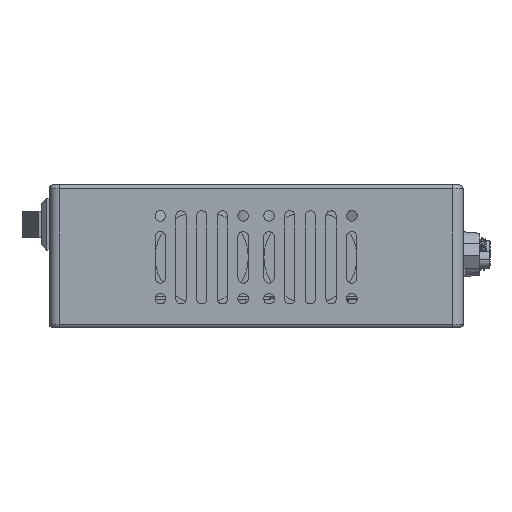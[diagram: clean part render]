
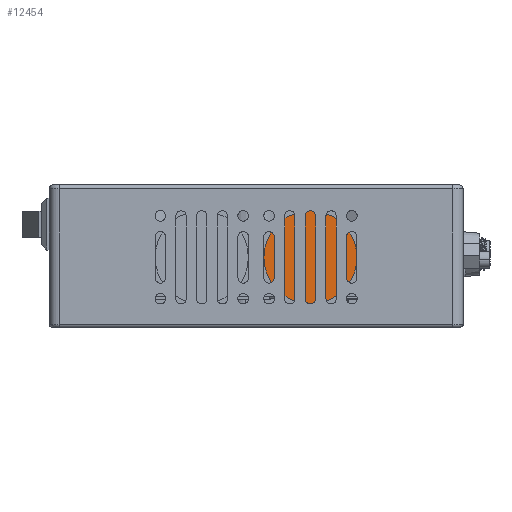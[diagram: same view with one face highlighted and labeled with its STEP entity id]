
A CAD part, left-side view. The second image highlights one B-rep face of the part: STEP entity #12454.
In plain terms, the highlighted planar face has unit normal (-1, 0, 0).
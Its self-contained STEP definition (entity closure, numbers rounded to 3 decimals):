
#8793 = DIRECTION ( 'NONE',  ( -1., 0., 0. ) ) ;
#12454 = ADVANCED_FACE ( 'NONE', ( #62877 ), #60549, .T. ) ;
#19005 = EDGE_LOOP ( 'NONE', ( #74101, #82746 ) ) ;
#20783 = CIRCLE ( 'NONE', #74014, 9. ) ;
#28559 = DIRECTION ( 'NONE',  ( -1., 0., 0. ) ) ;
#31846 = VERTEX_POINT ( 'NONE', #100546 ) ;
#36977 = AXIS2_PLACEMENT_3D ( 'NONE', #56960, #8793, #65093 ) ;
#40560 = CARTESIAN_POINT ( 'NONE',  ( -38.952, -7.074, 167.263 ) ) ;
#42659 = AXIS2_PLACEMENT_3D ( 'NONE', #52436, #28559, #84842 ) ;
#44124 = CARTESIAN_POINT ( 'NONE',  ( -38.952, -7.074, 158.263 ) ) ;
#46324 = EDGE_CURVE ( 'NONE', #47575, #31846, #76980, .T. ) ;
#47575 = VERTEX_POINT ( 'NONE', #44124 ) ;
#48620 = DIRECTION ( 'NONE',  ( 0., 0., 1. ) ) ;
#52436 = CARTESIAN_POINT ( 'NONE',  ( -38.952, -7.074, 167.263 ) ) ;
#56960 = CARTESIAN_POINT ( 'NONE',  ( -38.952, -7.074, 167.263 ) ) ;
#60549 = PLANE ( 'NONE',  #42659 ) ;
#62877 = FACE_OUTER_BOUND ( 'NONE', #19005, .T. ) ;
#65093 = DIRECTION ( 'NONE',  ( 0., 0., 1. ) ) ;
#69405 = EDGE_CURVE ( 'NONE', #31846, #47575, #20783, .T. ) ;
#74014 = AXIS2_PLACEMENT_3D ( 'NONE', #40560, #96851, #48620 ) ;
#74101 = ORIENTED_EDGE ( 'NONE', *, *, #69405, .T. ) ;
#76980 = CIRCLE ( 'NONE', #36977, 9. ) ;
#82746 = ORIENTED_EDGE ( 'NONE', *, *, #46324, .T. ) ;
#84842 = DIRECTION ( 'NONE',  ( 0., 0., 1. ) ) ;
#96851 = DIRECTION ( 'NONE',  ( -1., 0., 0. ) ) ;
#100546 = CARTESIAN_POINT ( 'NONE',  ( -38.952, -7.074, 176.263 ) ) ;
